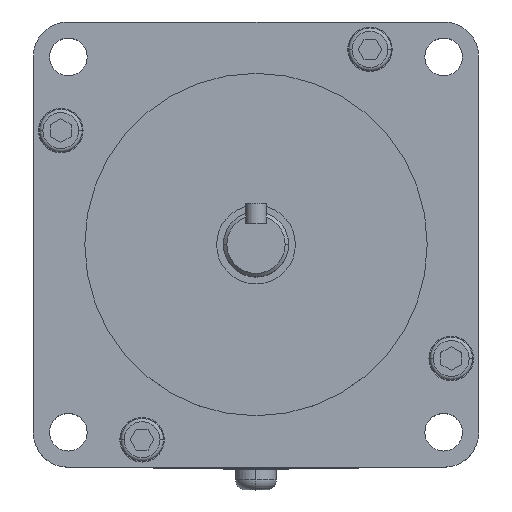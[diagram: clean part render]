
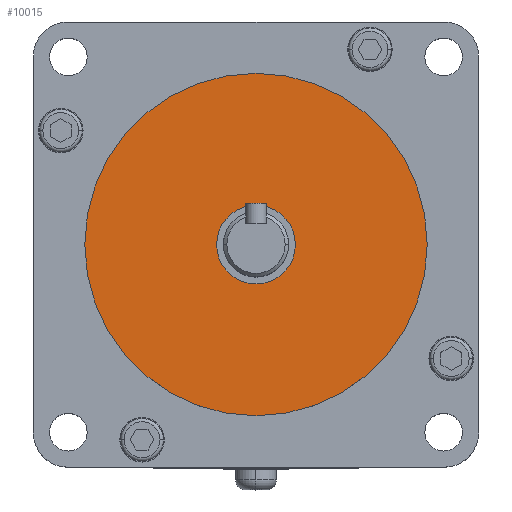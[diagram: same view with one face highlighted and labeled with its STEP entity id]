
A CAD part, top view. The second image highlights one B-rep face of the part: STEP entity #10015.
In plain terms, the highlighted planar face has unit normal (0, 0, 1).
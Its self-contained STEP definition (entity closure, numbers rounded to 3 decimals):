
#742 = CIRCLE ( 'NONE', #7813, 50. ) ;
#1132 = EDGE_CURVE ( 'NONE', #8628, #5656, #2959, .T. ) ;
#1219 = DIRECTION ( 'NONE',  ( 1., 0., 0. ) ) ;
#1731 = DIRECTION ( 'NONE',  ( 1., 0., 0. ) ) ;
#1801 = VERTEX_POINT ( 'NONE', #2629 ) ;
#1874 = AXIS2_PLACEMENT_3D ( 'NONE', #9875, #2651, #2161 ) ;
#1944 = FACE_OUTER_BOUND ( 'NONE', #9964, .T. ) ;
#2161 = DIRECTION ( 'NONE',  ( 1., 0., 0. ) ) ;
#2629 = CARTESIAN_POINT ( 'NONE',  ( 50., 0., 190.5 ) ) ;
#2651 = DIRECTION ( 'NONE',  ( 0., 0., 1. ) ) ;
#2655 = EDGE_CURVE ( 'NONE', #1801, #3585, #5788, .T. ) ;
#2754 = DIRECTION ( 'NONE',  ( 0., 0., 1. ) ) ;
#2959 = CIRCLE ( 'NONE', #5815, 11.5 ) ;
#3221 = EDGE_LOOP ( 'NONE', ( #6288, #3487 ) ) ;
#3354 = EDGE_CURVE ( 'NONE', #3585, #1801, #742, .T. ) ;
#3432 = AXIS2_PLACEMENT_3D ( 'NONE', #9982, #2754, #10094 ) ;
#3487 = ORIENTED_EDGE ( 'NONE', *, *, #1132, .F. ) ;
#3575 = CARTESIAN_POINT ( 'NONE',  ( 0., 0., 190.5 ) ) ;
#3585 = VERTEX_POINT ( 'NONE', #8737 ) ;
#3675 = AXIS2_PLACEMENT_3D ( 'NONE', #3575, #7333, #1731 ) ;
#4906 = CARTESIAN_POINT ( 'NONE',  ( 11.5, 0., 190.5 ) ) ;
#5148 = CARTESIAN_POINT ( 'NONE',  ( 0., 0., 190.5 ) ) ;
#5171 = FACE_BOUND ( 'NONE', #3221, .T. ) ;
#5656 = VERTEX_POINT ( 'NONE', #9425 ) ;
#5766 = CARTESIAN_POINT ( 'NONE',  ( 0., 0., 190.5 ) ) ;
#5788 = CIRCLE ( 'NONE', #3432, 50. ) ;
#5815 = AXIS2_PLACEMENT_3D ( 'NONE', #5148, #9909, #1219 ) ;
#6288 = ORIENTED_EDGE ( 'NONE', *, *, #8546, .F. ) ;
#7333 = DIRECTION ( 'NONE',  ( 0., 0., 1. ) ) ;
#7580 = PLANE ( 'NONE',  #1874 ) ;
#7813 = AXIS2_PLACEMENT_3D ( 'NONE', #5766, #8233, #9823 ) ;
#8233 = DIRECTION ( 'NONE',  ( 0., 0., 1. ) ) ;
#8546 = EDGE_CURVE ( 'NONE', #5656, #8628, #9070, .T. ) ;
#8628 = VERTEX_POINT ( 'NONE', #4906 ) ;
#8737 = CARTESIAN_POINT ( 'NONE',  ( -50., 0., 190.5 ) ) ;
#9029 = ORIENTED_EDGE ( 'NONE', *, *, #3354, .T. ) ;
#9070 = CIRCLE ( 'NONE', #3675, 11.5 ) ;
#9425 = CARTESIAN_POINT ( 'NONE',  ( -11.5, 0., 190.5 ) ) ;
#9823 = DIRECTION ( 'NONE',  ( 1., 0., 0. ) ) ;
#9875 = CARTESIAN_POINT ( 'NONE',  ( 0., 0., 190.5 ) ) ;
#9909 = DIRECTION ( 'NONE',  ( 0., 0., 1. ) ) ;
#9964 = EDGE_LOOP ( 'NONE', ( #9029, #10005 ) ) ;
#9982 = CARTESIAN_POINT ( 'NONE',  ( 0., 0., 190.5 ) ) ;
#10005 = ORIENTED_EDGE ( 'NONE', *, *, #2655, .T. ) ;
#10015 = ADVANCED_FACE ( 'NONE', ( #1944, #5171 ), #7580, .T. ) ;
#10094 = DIRECTION ( 'NONE',  ( 1., 0., 0. ) ) ;
